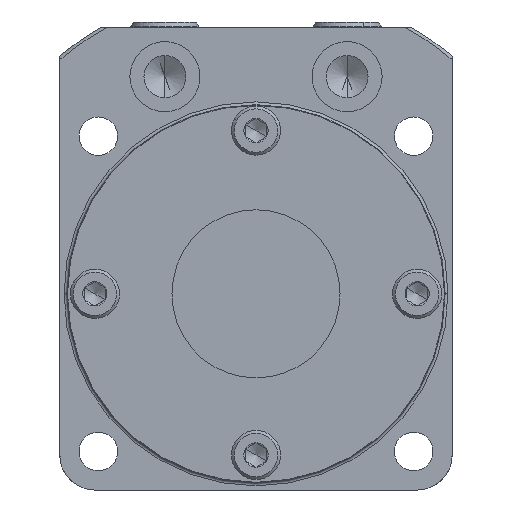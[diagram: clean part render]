
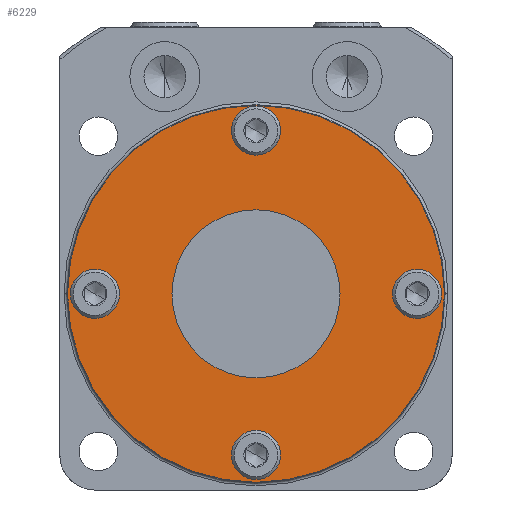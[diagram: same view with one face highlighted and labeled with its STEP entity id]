
A CAD part, front view. The second image highlights one B-rep face of the part: STEP entity #6229.
In plain terms, the highlighted planar face has unit normal (0, -1, 0).
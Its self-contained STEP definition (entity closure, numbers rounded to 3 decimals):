
#38 = VERTEX_POINT ( 'NONE', #1416 ) ;
#130 = EDGE_CURVE ( 'NONE', #131, #38, #1727, .T. ) ;
#131 = VERTEX_POINT ( 'NONE', #1717 ) ;
#1416 = CARTESIAN_POINT ( 'NONE',  ( 0., 16.5, 26.9 ) ) ;
#1717 = CARTESIAN_POINT ( 'NONE',  ( 0., 16.5, -26.9 ) ) ;
#1718 = DIRECTION ( 'NONE',  ( 0., 0., -1. ) ) ;
#1719 = DIRECTION ( 'NONE',  ( 0., -1., 0. ) ) ;
#1720 = CARTESIAN_POINT ( 'NONE',  ( 0., 16.5, 0. ) ) ;
#1721 = AXIS2_PLACEMENT_3D ( 'NONE', #1720, #1719, #1718 ) ;
#1727 = CIRCLE ( 'NONE', #1721, 26.9 ) ;
#4381 = FACE_BOUND ( 'NONE', #6280, .T. ) ;
#4382 = FACE_BOUND ( 'NONE', #6277, .T. ) ;
#4383 = FACE_BOUND ( 'NONE', #6200, .T. ) ;
#4384 = FACE_BOUND ( 'NONE', #6231, .T. ) ;
#4385 = FACE_BOUND ( 'NONE', #6227, .T. ) ;
#4386 = DIRECTION ( 'NONE',  ( 0., 0., -1. ) ) ;
#4387 = DIRECTION ( 'NONE',  ( 0., -1., 0. ) ) ;
#4388 = CARTESIAN_POINT ( 'NONE',  ( 0., 16.5, 0. ) ) ;
#4389 = AXIS2_PLACEMENT_3D ( 'NONE', #4388, #4387, #4386 ) ;
#4393 = CIRCLE ( 'NONE', #4389, 26.9 ) ;
#4425 = DIRECTION ( 'NONE',  ( 0., 0., -1. ) ) ;
#4426 = DIRECTION ( 'NONE',  ( 0., -1., 0. ) ) ;
#4427 = CARTESIAN_POINT ( 'NONE',  ( 23., 16.5, 0. ) ) ;
#4428 = AXIS2_PLACEMENT_3D ( 'NONE', #4427, #4426, #4425 ) ;
#4429 = CIRCLE ( 'NONE', #4428, 2.15 ) ;
#4430 = DIRECTION ( 'NONE',  ( 0., 0., -1. ) ) ;
#4431 = DIRECTION ( 'NONE',  ( 0., -1., 0. ) ) ;
#4432 = CARTESIAN_POINT ( 'NONE',  ( -23., 16.5, 0. ) ) ;
#4433 = AXIS2_PLACEMENT_3D ( 'NONE', #4432, #4431, #4430 ) ;
#4434 = DIRECTION ( 'NONE',  ( 0., 0., -1. ) ) ;
#4435 = DIRECTION ( 'NONE',  ( 0., -1., 0. ) ) ;
#4436 = CARTESIAN_POINT ( 'NONE',  ( 0., 16.5, 0. ) ) ;
#4437 = CIRCLE ( 'NONE', #4433, 2.15 ) ;
#4438 = AXIS2_PLACEMENT_3D ( 'NONE', #4436, #4435, #4434 ) ;
#4439 = PLANE ( 'NONE',  #4438 ) ;
#4440 = FACE_OUTER_BOUND ( 'NONE', #6272, .T. ) ;
#4476 = DIRECTION ( 'NONE',  ( 0., 0., -1. ) ) ;
#4477 = DIRECTION ( 'NONE',  ( 0., -1., 0. ) ) ;
#4478 = CARTESIAN_POINT ( 'NONE',  ( 0., 16.5, -23. ) ) ;
#4479 = AXIS2_PLACEMENT_3D ( 'NONE', #4478, #4477, #4476 ) ;
#4480 = CIRCLE ( 'NONE', #4479, 2.15 ) ;
#4481 = DIRECTION ( 'NONE',  ( 0., 0., -1. ) ) ;
#4482 = DIRECTION ( 'NONE',  ( 0., -1., 0. ) ) ;
#4483 = CARTESIAN_POINT ( 'NONE',  ( 0., 16.5, 23.3 ) ) ;
#4484 = AXIS2_PLACEMENT_3D ( 'NONE', #4483, #4482, #4481 ) ;
#4485 = CIRCLE ( 'NONE', #4484, 2.15 ) ;
#4486 = DIRECTION ( 'NONE',  ( 0., 0., -1. ) ) ;
#4487 = DIRECTION ( 'NONE',  ( 0., -1., 0. ) ) ;
#4488 = CARTESIAN_POINT ( 'NONE',  ( 0., 16.5, 0. ) ) ;
#4489 = AXIS2_PLACEMENT_3D ( 'NONE', #4488, #4487, #4486 ) ;
#4490 = CIRCLE ( 'NONE', #4489, 12. ) ;
#4505 = CARTESIAN_POINT ( 'NONE',  ( 0., 16.5, 12. ) ) ;
#4517 = CARTESIAN_POINT ( 'NONE',  ( 0., 16.5, -12. ) ) ;
#4518 = CARTESIAN_POINT ( 'NONE',  ( 0., 16.5, 25.45 ) ) ;
#4523 = DIRECTION ( 'NONE',  ( 0., 0., -1. ) ) ;
#4524 = DIRECTION ( 'NONE',  ( 0., -1., 0. ) ) ;
#4525 = CARTESIAN_POINT ( 'NONE',  ( 0., 16.5, 23.3 ) ) ;
#4526 = AXIS2_PLACEMENT_3D ( 'NONE', #4525, #4524, #4523 ) ;
#4527 = CIRCLE ( 'NONE', #4526, 2.15 ) ;
#4533 = CARTESIAN_POINT ( 'NONE',  ( 0., 16.5, 21.15 ) ) ;
#5057 = DIRECTION ( 'NONE',  ( 0., 0., -1. ) ) ;
#5058 = DIRECTION ( 'NONE',  ( 0., -1., 0. ) ) ;
#5059 = CARTESIAN_POINT ( 'NONE',  ( 0., 16.5, 0. ) ) ;
#5060 = AXIS2_PLACEMENT_3D ( 'NONE', #5059, #5058, #5057 ) ;
#5061 = CIRCLE ( 'NONE', #5060, 12. ) ;
#5256 = DIRECTION ( 'NONE',  ( 0., 0., -1. ) ) ;
#5257 = DIRECTION ( 'NONE',  ( 0., -1., 0. ) ) ;
#5258 = CARTESIAN_POINT ( 'NONE',  ( 23., 16.5, 0. ) ) ;
#5259 = AXIS2_PLACEMENT_3D ( 'NONE', #5258, #5257, #5256 ) ;
#5260 = CIRCLE ( 'NONE', #5259, 2.15 ) ;
#5261 = DIRECTION ( 'NONE',  ( 0., 0., -1. ) ) ;
#5262 = DIRECTION ( 'NONE',  ( 0., -1., 0. ) ) ;
#5263 = CARTESIAN_POINT ( 'NONE',  ( 0., 16.5, -23. ) ) ;
#5264 = AXIS2_PLACEMENT_3D ( 'NONE', #5263, #5262, #5261 ) ;
#5265 = CIRCLE ( 'NONE', #5264, 2.15 ) ;
#5266 = CARTESIAN_POINT ( 'NONE',  ( 0., 16.5, -20.85 ) ) ;
#5293 = CARTESIAN_POINT ( 'NONE',  ( 0., 16.5, -25.15 ) ) ;
#5294 = CARTESIAN_POINT ( 'NONE',  ( -23., 16.5, -2.15 ) ) ;
#5295 = CARTESIAN_POINT ( 'NONE',  ( -23., 16.5, 2.15 ) ) ;
#5324 = CARTESIAN_POINT ( 'NONE',  ( 23., 16.5, -2.15 ) ) ;
#5325 = CARTESIAN_POINT ( 'NONE',  ( 23., 16.5, 2.15 ) ) ;
#5343 = DIRECTION ( 'NONE',  ( 0., 0., -1. ) ) ;
#5344 = DIRECTION ( 'NONE',  ( 0., -1., 0. ) ) ;
#5345 = CARTESIAN_POINT ( 'NONE',  ( -23., 16.5, 0. ) ) ;
#5346 = AXIS2_PLACEMENT_3D ( 'NONE', #5345, #5344, #5343 ) ;
#5347 = CIRCLE ( 'NONE', #5346, 2.15 ) ;
#6199 = ORIENTED_EDGE ( 'NONE', *, *, #6281, .F. ) ;
#6200 = EDGE_LOOP ( 'NONE', ( #6199, #6276 ) ) ;
#6225 = ORIENTED_EDGE ( 'NONE', *, *, #6768, .F. ) ;
#6227 = EDGE_LOOP ( 'NONE', ( #6230, #6235 ) ) ;
#6228 = EDGE_CURVE ( 'NONE', #38, #131, #4393, .T. ) ;
#6229 = ADVANCED_FACE ( 'NONE', ( #4385, #4384, #4383, #4382, #4381, #4440 ), #4439, .T. ) ;
#6230 = ORIENTED_EDGE ( 'NONE', *, *, #6234, .F. ) ;
#6231 = EDGE_LOOP ( 'NONE', ( #6232, #6225 ) ) ;
#6232 = ORIENTED_EDGE ( 'NONE', *, *, #6233, .F. ) ;
#6233 = EDGE_CURVE ( 'NONE', #6739, #6738, #4437, .T. ) ;
#6234 = EDGE_CURVE ( 'NONE', #6754, #6753, #4429, .T. ) ;
#6235 = ORIENTED_EDGE ( 'NONE', *, *, #6727, .F. ) ;
#6269 = ORIENTED_EDGE ( 'NONE', *, *, #130, .T. ) ;
#6270 = ORIENTED_EDGE ( 'NONE', *, *, #6228, .T. ) ;
#6271 = EDGE_CURVE ( 'NONE', #6302, #6294, #4490, .T. ) ;
#6272 = EDGE_LOOP ( 'NONE', ( #6269, #6270 ) ) ;
#6273 = ORIENTED_EDGE ( 'NONE', *, *, #6271, .F. ) ;
#6274 = ORIENTED_EDGE ( 'NONE', *, *, #6614, .F. ) ;
#6275 = ORIENTED_EDGE ( 'NONE', *, *, #6290, .F. ) ;
#6276 = ORIENTED_EDGE ( 'NONE', *, *, #6725, .F. ) ;
#6277 = EDGE_LOOP ( 'NONE', ( #6278, #6275 ) ) ;
#6278 = ORIENTED_EDGE ( 'NONE', *, *, #6279, .F. ) ;
#6279 = EDGE_CURVE ( 'NONE', #6285, #6293, #4485, .T. ) ;
#6280 = EDGE_LOOP ( 'NONE', ( #6274, #6273 ) ) ;
#6281 = EDGE_CURVE ( 'NONE', #6740, #6723, #4480, .T. ) ;
#6285 = VERTEX_POINT ( 'NONE', #4533 ) ;
#6290 = EDGE_CURVE ( 'NONE', #6293, #6285, #4527, .T. ) ;
#6293 = VERTEX_POINT ( 'NONE', #4518 ) ;
#6294 = VERTEX_POINT ( 'NONE', #4517 ) ;
#6302 = VERTEX_POINT ( 'NONE', #4505 ) ;
#6614 = EDGE_CURVE ( 'NONE', #6294, #6302, #5061, .T. ) ;
#6723 = VERTEX_POINT ( 'NONE', #5266 ) ;
#6725 = EDGE_CURVE ( 'NONE', #6723, #6740, #5265, .T. ) ;
#6727 = EDGE_CURVE ( 'NONE', #6753, #6754, #5260, .T. ) ;
#6738 = VERTEX_POINT ( 'NONE', #5295 ) ;
#6739 = VERTEX_POINT ( 'NONE', #5294 ) ;
#6740 = VERTEX_POINT ( 'NONE', #5293 ) ;
#6753 = VERTEX_POINT ( 'NONE', #5325 ) ;
#6754 = VERTEX_POINT ( 'NONE', #5324 ) ;
#6768 = EDGE_CURVE ( 'NONE', #6738, #6739, #5347, .T. ) ;
